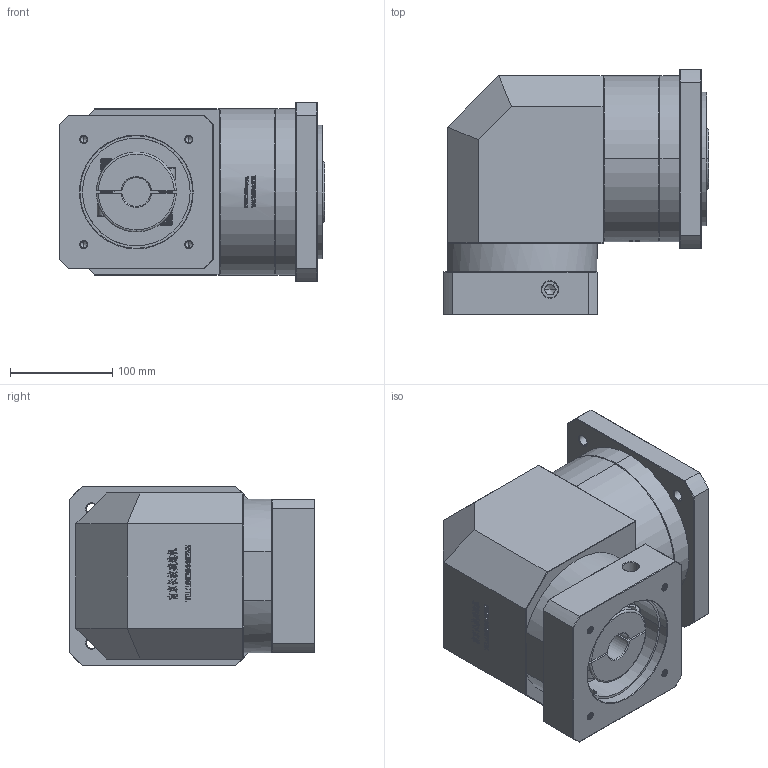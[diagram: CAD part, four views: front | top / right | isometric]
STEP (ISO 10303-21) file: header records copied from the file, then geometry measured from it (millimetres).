
FILE_DESCRIPTION (( 'STEP AP214' ), '1' );
FILE_NAME ('ZFR160A-K35-L1-28-110-145-M8.step', '2023-03-22T11:47:02', ( '' ), ( '' ), 'SwSTEP 2.0', 'SolidWorks 2016', '' );
FILE_SCHEMA (( 'AUTOMOTIVE_DESIGN' ));
Length unit declared in the file: millimetre
Products named in the file (1): ZFR160A-K35-L1-28-110-145-M8
Bounding box: 258.7 x 239.5 x 175 mm (x, y, z)
Volume: 6431981.9 mm3; surface area: 426132.6 mm2
Topology: 6 solids, 6 shells, 2485 faces, 6544 edges, 4211 vertices
Faces by surface type: plane 1268, bspline 494, cylinder 401, cone 302, torus 20
Entity records: 138350 total; most frequent: CARTESIAN_POINT 53973, ORIENTED_EDGE 13032, DIRECTION 9886, EDGE_CURVE 6516, VERTEX_POINT 4211, VECTOR 4120, LINE 4120, AXIS2_PLACEMENT_3D 2883
